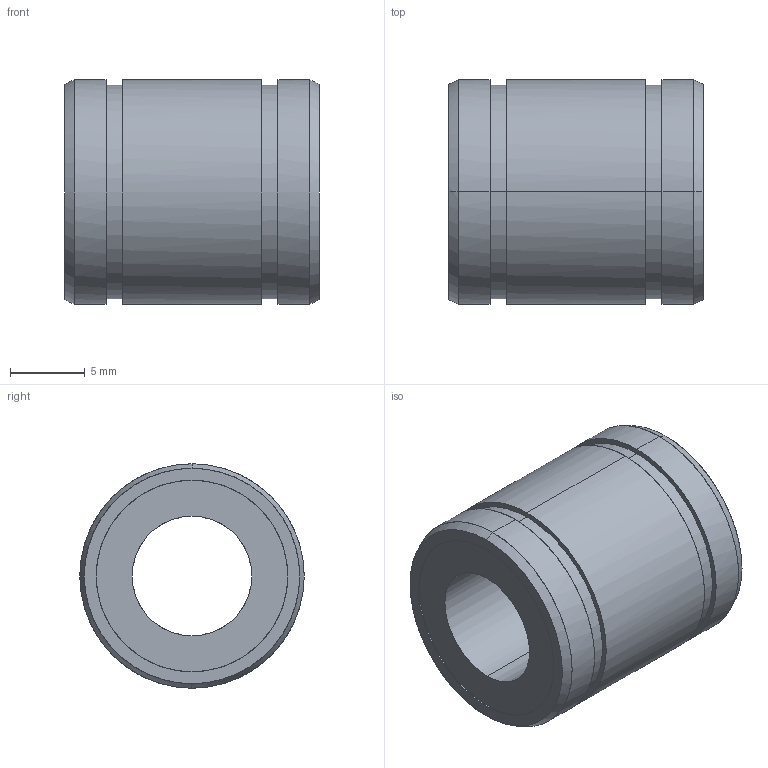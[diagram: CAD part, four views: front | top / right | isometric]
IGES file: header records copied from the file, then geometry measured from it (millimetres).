
Global section: file name: No Iges File Name specified; native system: AutoDesk Inventor R10; preprocessor: AutoDesk Inventor Iges Exporter R10; author: No Author specified; organization: No Organization specified; date: 20101208.094654; units: millimetre
Bounding box: 17 x 15 x 15 mm (x, y, z)
Surface area: 1521.4 mm2 (no closed solid volume)
Topology: 0 solids, 0 shells, 28 faces, 184 edges, 184 vertices
Faces by surface type: bspline 28
